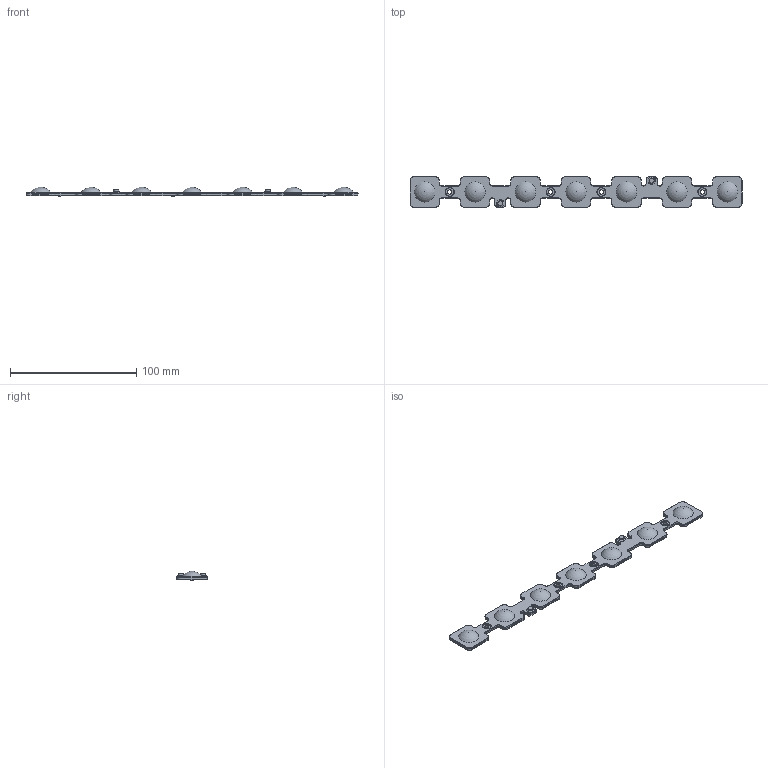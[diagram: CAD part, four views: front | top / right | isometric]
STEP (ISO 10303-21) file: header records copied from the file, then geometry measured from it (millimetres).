
FILE_DESCRIPTION(('STEP AP242'),'1');
FILE_NAME('POLLUX 7x1 Mechanical.stp','2024-09-04T08:20:35',(' '),(' '),'Spatial InterOp 3D',' ',' ');
FILE_SCHEMA(('AP242_MANAGED_MODEL_BASED_3D_ENGINEERING_MIM_LF {1 0 10303 442 1 1 4}'));
Length unit declared in the file: millimetre
Products named in the file (1): POLLUX 7x1 Mechanical
Bounding box: 263.05 x 24.35 x 7.55 mm (x, y, z)
Surface area: 12275.9 mm2 (no closed solid volume)
Topology: 0 solids, 1 shells, 511 faces, 1355 edges, 860 vertices
Faces by surface type: plane 254, cylinder 92, bspline 90, cone 32, extrusion 19, sphere 14, revolution 8, torus 2
Full cylindrical faces by diameter (mm): 3 x3, 5 x1
Entity records: 24341 total; most frequent: CARTESIAN_POINT 8867, ORIENTED_EDGE 2578, DIRECTION 1897, EDGE_CURVE 1289, VERTEX_POINT 822, VECTOR 691, LINE 670, AXIS2_PLACEMENT_3D 599
